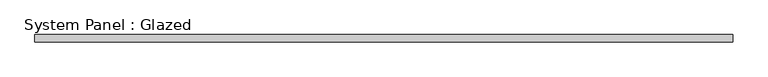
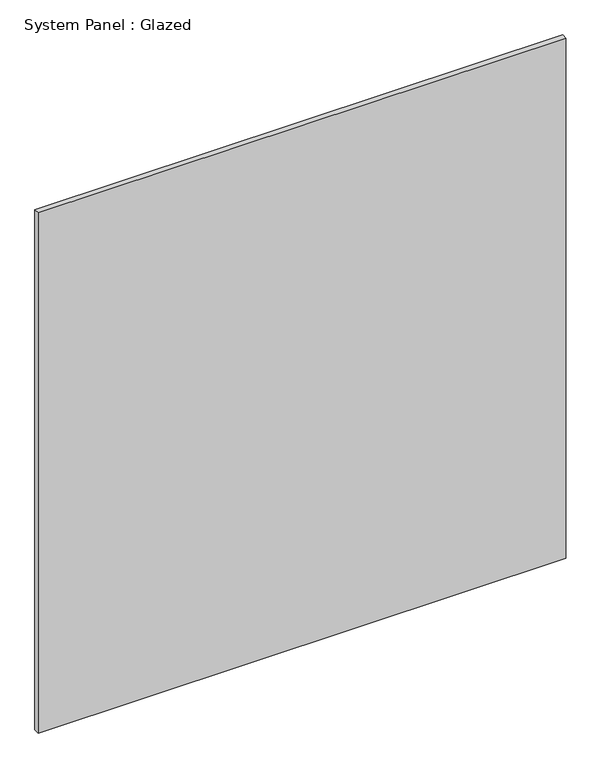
"""IFC4 building model written with IfcOpenShell, lengths in millimetres: plate geometry, System Panel : Glazed."""

from ifc_helpers import new_model, si_unit, origin, origin_with_axes, place, context, project, spatial, polyline, outline, extrude, source, transform, mapped, element, save


def system_panel_glazed_ab2ade44(model_context):
    return source(origin(), model_context, "Body", "SweptSolid", [
        extrude(outline(polyline([(1235.2309405, 19.05), (-1235.2309405, 19.05), (-1235.2309405, 44.45), (1235.2309405, 44.45), (1235.2309405, 19.05)])), origin_with_axes(), (0.0, 0.0, 1.0), 2573.8666667),
    ])


if __name__ == "__main__":
    model = new_model("IFC4")
    model_context = context("Model", 3, world=origin())
    ifc_project = project(units=[si_unit("LENGTHUNIT", "METRE", prefix="MILLI")], contexts=[model_context])
    site = spatial("IfcSite", under=ifc_project)
    building = spatial("IfcBuilding", under=site)
    placement = place(None, origin())
    system_panel_glazed_shape = system_panel_glazed_ab2ade44(model_context)
    element("IfcPlate", 1, ObjectType="System Panel : Glazed", at=placement, inside=building, context=model_context, shape_type="MappedRepresentation", body=[
        mapped(system_panel_glazed_shape, transform((0.0, 0.0, 0.0), x_axis=(1.0, 0.0, 0.0), y_axis=(0.0, 1.0, 0.0), z_axis=(0.0, 0.0, 1.0))),
    ])
    save(model, "model.ifc")
